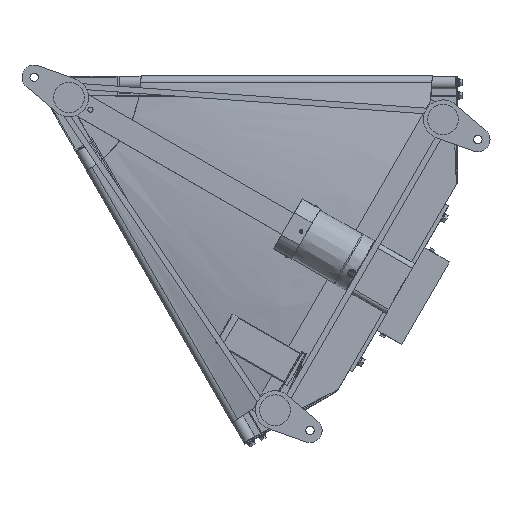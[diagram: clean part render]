
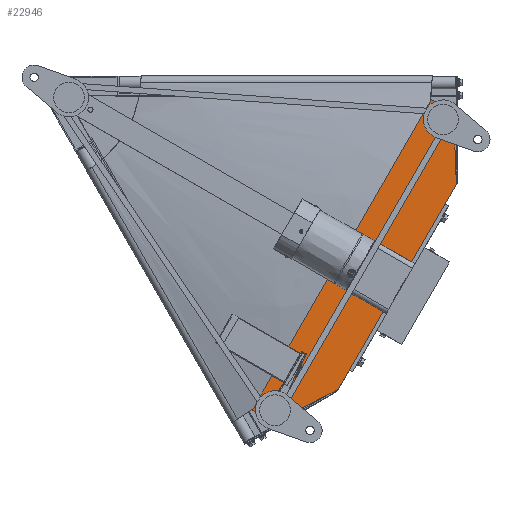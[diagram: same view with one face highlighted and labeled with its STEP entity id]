
A CAD part, front view. The second image highlights one B-rep face of the part: STEP entity #22946.
In plain terms, the highlighted planar face has unit normal (0, -1, 0).
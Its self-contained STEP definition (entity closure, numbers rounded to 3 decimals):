
#184 = EDGE_CURVE ( 'NONE', #6330, #4426, #41843, .T. ) ;
#1812 = VERTEX_POINT ( 'NONE', #15646 ) ;
#4426 = VERTEX_POINT ( 'NONE', #20094 ) ;
#5665 = CARTESIAN_POINT ( 'NONE',  ( 623.99, -167.5, -36.945 ) ) ;
#6330 = VERTEX_POINT ( 'NONE', #16262 ) ;
#6760 = DIRECTION ( 'NONE',  ( 0.5, 0., 0.866 ) ) ;
#7893 = EDGE_CURVE ( 'NONE', #36009, #35772, #11476, .T. ) ;
#8073 = VECTOR ( 'NONE', #9653, 1000. ) ;
#8819 = ORIENTED_EDGE ( 'NONE', *, *, #184, .F. ) ;
#9653 = DIRECTION ( 'NONE',  ( -0.866, 0., 0.5 ) ) ;
#11476 = LINE ( 'NONE', #27506, #14147 ) ;
#13079 = DIRECTION ( 'NONE',  ( 0.885, 0., 0.465 ) ) ;
#14147 = VECTOR ( 'NONE', #30509, 1000. ) ;
#15003 = ORIENTED_EDGE ( 'NONE', *, *, #7893, .F. ) ;
#15646 = CARTESIAN_POINT ( 'NONE',  ( 478.092, -167.5, -489.646 ) ) ;
#16262 = CARTESIAN_POINT ( 'NONE',  ( 378.631, -167.5, -541.919 ) ) ;
#17353 = ORIENTED_EDGE ( 'NONE', *, *, #41790, .F. ) ;
#17665 = DIRECTION ( 'NONE',  ( 0., -1., 0. ) ) ;
#18168 = ORIENTED_EDGE ( 'NONE', *, *, #32673, .T. ) ;
#19800 = LINE ( 'NONE', #27258, #42848 ) ;
#20094 = CARTESIAN_POINT ( 'NONE',  ( 343.99, -167.5, -521.919 ) ) ;
#20519 = PLANE ( 'NONE',  #22894 ) ;
#21576 = LINE ( 'NONE', #41434, #23721 ) ;
#21599 = ORIENTED_EDGE ( 'NONE', *, *, #22053, .T. ) ;
#21952 = LINE ( 'NONE', #34345, #27797 ) ;
#22053 = EDGE_CURVE ( 'NONE', #6330, #1812, #32194, .T. ) ;
#22894 = AXIS2_PLACEMENT_3D ( 'NONE', #27810, #17665, #31425 ) ;
#22946 = ADVANCED_FACE ( 'NONE', ( #26313 ), #20519, .T. ) ;
#23095 = VECTOR ( 'NONE', #13079, 1000. ) ;
#23721 = VECTOR ( 'NONE', #31066, 1000. ) ;
#25422 = EDGE_LOOP ( 'NONE', ( #21599, #17353, #18168, #15003, #38026, #8819 ) ) ;
#26313 = FACE_OUTER_BOUND ( 'NONE', #25422, .T. ) ;
#26712 = CARTESIAN_POINT ( 'NONE',  ( 343.99, -167.5, -521.919 ) ) ;
#27258 = CARTESIAN_POINT ( 'NONE',  ( 658.631, -167.5, -56.945 ) ) ;
#27506 = CARTESIAN_POINT ( 'NONE',  ( 623.99, -167.5, -36.945 ) ) ;
#27797 = VECTOR ( 'NONE', #6760, 1000. ) ;
#27810 = CARTESIAN_POINT ( 'NONE',  ( 8.975, -167.5, -5.182 ) ) ;
#30361 = CARTESIAN_POINT ( 'NONE',  ( 663.092, -167.5, -169.217 ) ) ;
#30509 = DIRECTION ( 'NONE',  ( 0.866, 0., -0.5 ) ) ;
#31066 = DIRECTION ( 'NONE',  ( -0.5, 0., -0.866 ) ) ;
#31425 = DIRECTION ( 'NONE',  ( 0., 0., -1. ) ) ;
#31788 = VERTEX_POINT ( 'NONE', #30361 ) ;
#32194 = LINE ( 'NONE', #42935, #23095 ) ;
#32356 = CARTESIAN_POINT ( 'NONE',  ( 658.631, -167.5, -56.945 ) ) ;
#32673 = EDGE_CURVE ( 'NONE', #31788, #35772, #19800, .T. ) ;
#33357 = EDGE_CURVE ( 'NONE', #4426, #36009, #21952, .T. ) ;
#34345 = CARTESIAN_POINT ( 'NONE',  ( 343.99, -167.5, -521.919 ) ) ;
#35772 = VERTEX_POINT ( 'NONE', #32356 ) ;
#36009 = VERTEX_POINT ( 'NONE', #5665 ) ;
#38026 = ORIENTED_EDGE ( 'NONE', *, *, #33357, .F. ) ;
#41434 = CARTESIAN_POINT ( 'NONE',  ( 430.592, -167.5, -571.919 ) ) ;
#41790 = EDGE_CURVE ( 'NONE', #31788, #1812, #21576, .T. ) ;
#41843 = LINE ( 'NONE', #26712, #8073 ) ;
#42848 = VECTOR ( 'NONE', #44231, 1000. ) ;
#42935 = CARTESIAN_POINT ( 'NONE',  ( 378.631, -167.5, -541.919 ) ) ;
#44231 = DIRECTION ( 'NONE',  ( -0.04, 0., 0.999 ) ) ;
